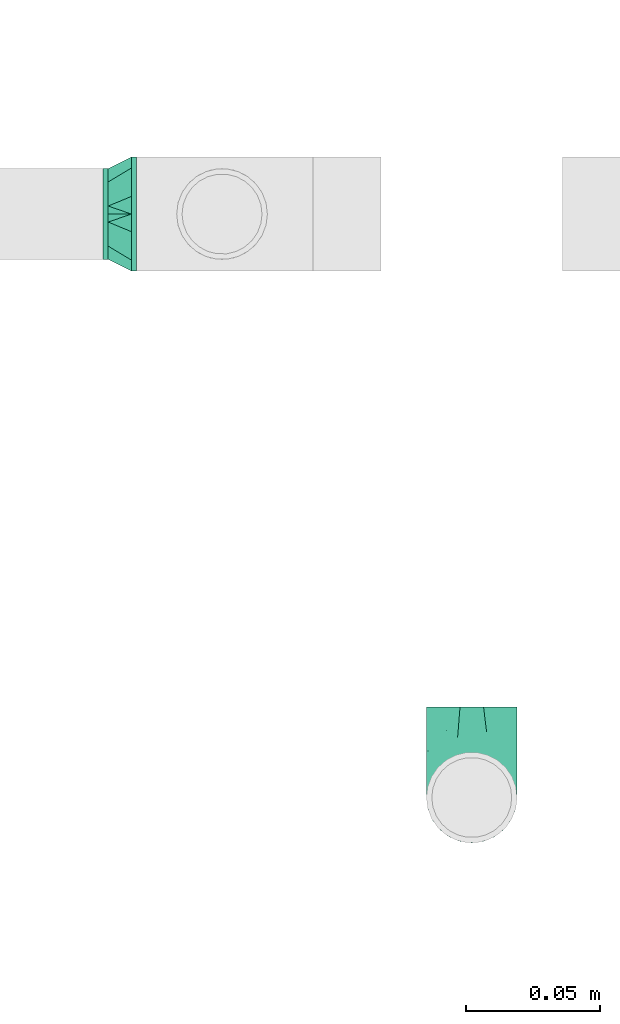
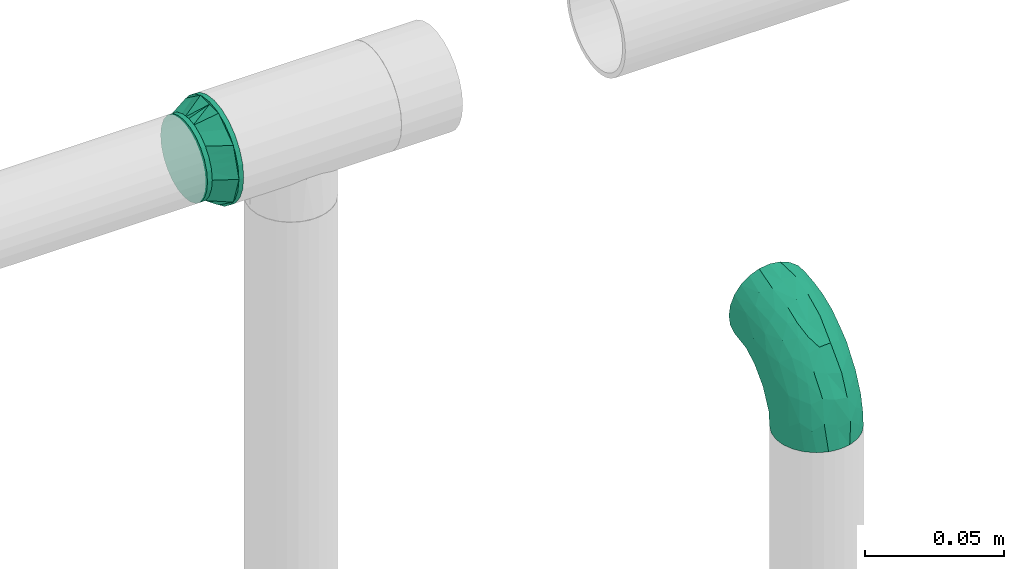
# One storey, part 58 of 94: 2 flow fittings.
"""IFC2X3 building model written with IfcOpenShell, lengths in millimetres."""

from ifc_helpers import new_model, entity, si_unit, converted_unit, derived_unit, direction, frame, origin_with_axes, place, context, subcontext, project, spatial, open_shell, surface_model, source, transform, mapped, type_object, element, save


model = new_model("IFC2X3")

# Units and contexts
model_context = context("Model", 3, precision=0.01, world=frame((0.0, 4.29681676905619e-09, 0.0)), true_north=direction((4.01073788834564e-13, 1.0)))
plan_context = context("Plan", 3, precision=0.01, world=frame((0.0, 4.29681676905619e-09, 0.0)), true_north=direction((4.01073788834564e-13, 1.0)))
body_context = subcontext(model_context, "Body", "Model", "MODEL_VIEW")
ifc_project = project(units=[converted_unit("PLANEANGLEUNIT", "DEGREE", entity("IfcPositiveLengthMeasure", 0.0174532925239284), si_unit("PLANEANGLEUNIT", "RADIAN"), dimensions=[0, 0, 0, 0, 0, 0, 0]), si_unit("AREAUNIT", "SQUARE_METRE"), si_unit("LENGTHUNIT", "METRE", prefix="MILLI"), si_unit("MASSUNIT", "GRAM", prefix="KILO"), si_unit("POWERUNIT", "WATT"), si_unit("PRESSUREUNIT", "PASCAL", prefix="KILO"), si_unit("FORCEUNIT", "NEWTON", prefix="KILO"), si_unit("ELECTRICVOLTAGEUNIT", "VOLT"), si_unit("ELECTRICCURRENTUNIT", "AMPERE"), si_unit("THERMODYNAMICTEMPERATUREUNIT", "DEGREE_CELSIUS"), si_unit("TIMEUNIT", "SECOND"), si_unit("VOLUMEUNIT", "CUBIC_METRE"), derived_unit("LINEARVELOCITYUNIT", [(si_unit("LENGTHUNIT", "METRE"), 1), (si_unit("TIMEUNIT", "SECOND"), -1)]), derived_unit("VOLUMETRICFLOWRATEUNIT", [(si_unit("VOLUMEUNIT", "CUBIC_METRE"), 1), (si_unit("TIMEUNIT", "SECOND"), -1)]), derived_unit("THERMALTRANSMITTANCEUNIT", [(si_unit("POWERUNIT", "WATT"), 1), (si_unit("THERMODYNAMICTEMPERATUREUNIT", "KELVIN"), -1), (si_unit("AREAUNIT", "SQUARE_METRE"), -1)]), derived_unit("SOUNDPRESSUREUNIT", [(si_unit("PRESSUREUNIT", "PASCAL"), 1)])], contexts=[model_context, plan_context])

# Site, building, storey
site_placement = place(None, frame((0.0, -4.29681676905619e-09, 0.0), z_axis=(0.0, 0.0, 1.0), x_axis=(1.0, 0.0, 0.0)))
site = spatial("IfcSite", under=ifc_project, at=site_placement, CompositionType="ELEMENT")
building_placement = place(site_placement, frame((0.0, 4.29681676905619e-09, 0.0), z_axis=(0.0, 0.0, 1.0), x_axis=(1.0, 0.0, 0.0)))
building = spatial("IfcBuilding", under=site, at=building_placement, Name="mc-building", CompositionType="ELEMENT")
storey_placement = place(building_placement, frame((0.0, 0.0, 210900.0), z_axis=(0.0, 0.0, 1.0), x_axis=(1.0, 0.0, 0.0)))
storey = spatial("IfcBuildingStorey", under=building, at=storey_placement, Name="Nivå F", CompositionType="ELEMENT", Elevation=210900.0)

# Flow fittings
pipe_fitting_type_1 = type_object("IfcPipeFittingType", Name="magi_pipe_fe_reducer_centric_short_NOR", PredefinedType="TRANSITION")
shared_shape_1 = source(origin_with_axes(), body_context, "Body", "SurfaceModel", [
    surface_model("IfcShellBasedSurfaceModel", [(-2.0, -10.6, -18.35974), (-2.0, 0.0, -21.2), (-2.0, -5.48696, -20.47763), (-2.0, 5.48696, -20.47763), (-2.0, 10.6, -18.35974), (8.6, -11.9501, -11.9501), (8.6, -11.9501, 11.9501), (8.6, -16.9, 0.0), (8.6, 11.9501, -11.9501), (8.6, 16.9, 0.0), (8.6, 0.0, -16.9), (0.0, 17.15116, 12.46105), (0.0, 6.55116, -20.1624), (0.0, -21.2, 0.0), (0.0, -6.55116, -20.1624), (0.0, -17.15116, -12.46105), (8.6, 2.98753, -15.66253), (0.0, 0.0, -20.1624), (0.0, -11.85116, -16.31172), (8.6, -2.98753, -15.66253), (8.6, 8.96258, -13.18758), (8.6, 5.97505, -14.42505), (0.0, 11.85116, -16.31172), (8.6, -5.97505, -14.42505), (8.6, -13.18758, -8.96258), (8.6, -8.96258, -13.18758), (0.0, -6.55116, 20.1624), (8.6, -2.98753, 15.66253), (0.0, 0.0, 20.1624), (8.6, 11.9501, 11.9501), (0.0, 11.85116, 16.31172), (8.6, 2.98753, 15.66253), (0.0, 6.55116, 20.1624), (8.6, -8.96258, 13.18758), (8.6, -5.97505, 14.42505), (0.0, -11.85116, 16.31172), (8.6, 5.97505, 14.42505), (8.6, 13.18758, 8.96258), (8.6, 8.96258, 13.18758), (10.6, 4.37404, -16.32415), (10.6, 8.45, -14.63583), (10.6, 11.9501, -11.9501), (10.6, -8.45, -14.63583), (10.6, 16.32415, -4.37404), (10.6, 16.32415, 4.37404), (10.6, 14.63583, -8.45), (10.6, 0.0, -16.9), (10.6, -4.37404, -16.32415), (10.6, -11.9501, -11.9501), (10.6, -16.32415, -4.37404), (10.6, -14.63583, -8.45), (10.6, -16.32415, 4.37404), (10.6, 16.9, 0.0), (10.6, 14.63583, 8.45), (10.6, 11.9501, 11.9501), (10.6, 4.37404, 16.32415), (10.6, 8.45, 14.63583), (10.6, 0.0, 16.9), (10.6, -14.63583, 8.45), (10.6, -16.9, 0.0), (10.6, -8.45, 14.63583), (10.6, -11.9501, 11.9501), (10.6, -4.37404, 16.32415), (8.6, 4.37404, 16.32415), (8.6, -14.63583, 8.45), (8.6, 0.0, 16.9), (8.6, 16.32415, 4.37404), (8.6, 8.45, 14.63583), (8.6, 14.63583, 8.45), (8.6, -8.45, 14.63583), (8.6, -4.37404, 16.32415), (8.6, -16.32415, 4.37404), (8.6, -16.32415, -4.37404), (8.6, -8.45, -14.63583), (8.6, 16.32415, -4.37404), (8.6, 14.63583, -8.45), (8.6, 8.45, -14.63583), (8.6, 4.37404, -16.32415), (8.6, -14.63583, -8.45), (8.6, -4.37404, -16.32415), (-2.0, 0.0, 21.2), (-2.0, 5.48696, 20.47763), (-2.0, 10.6, 18.35974), (-2.0, 14.99066, 14.99066), (-2.0, 18.35974, 10.6), (-2.0, 20.47763, 5.48696), (-2.0, -21.2, 0.0), (-2.0, -14.99066, -14.99066), (-2.0, -5.48696, 20.47763), (-2.0, -14.99066, 14.99066), (-2.0, -10.6, 18.35974), (-2.0, -18.35974, 10.6), (-2.0, -20.47763, 5.48696), (-2.0, 20.47763, -5.48696), (-2.0, 14.99066, -14.99066), (-2.0, 18.35974, -10.6), (-2.0, -18.35974, -10.6), (-2.0, -20.47763, -5.48696), (-2.0, 21.2, 0.0), (0.0, 10.6, -18.35974), (0.0, 0.0, -21.2), (0.0, 5.48696, -20.47763), (0.0, 20.47763, -5.48696), (0.0, 14.99066, -14.99066), (0.0, -14.99066, -14.99066), (0.0, 18.35974, -10.6), (0.0, -10.6, -18.35974), (0.0, -5.48696, -20.47763), (0.0, -18.35974, -10.6), (0.0, -20.47763, -5.48696), (0.0, -18.35974, 10.6), (0.0, 21.2, 0.0), (0.0, 20.47763, 5.48696), (0.0, 18.35974, 10.6), (0.0, 14.99066, 14.99066), (0.0, 0.0, 21.2), (0.0, 10.6, 18.35974), (0.0, 5.48696, 20.47763), (0.0, -14.99066, 14.99066), (0.0, -20.47763, 5.48696), (0.0, -5.48696, 20.47763), (0.0, -10.6, 18.35974), (0.0, -17.15116, 12.46105), (0.0, 17.15116, -12.46105), (0.0, 14.50116, -14.38638), (8.6, -14.42505, -5.97505), (0.0, -19.17558, -6.23052), (0.0, -18.16337, -9.34579), (8.6, 14.42505, -5.97505), (0.0, 19.17558, -6.23052), (8.6, 13.18758, -8.96258), (8.6, 15.66253, -2.98753), (8.6, -15.66253, -2.98753), (0.0, -14.50116, 14.38638), (8.6, 14.42505, 5.97505), (0.0, 19.17558, 6.23052), (0.0, 18.16337, 9.34579), (8.6, -14.42505, 5.97505), (0.0, -19.17558, 6.23052), (8.6, -13.18758, 8.96258), (8.6, -15.66253, 2.98753), (8.6, 15.66253, 2.98753)], [open_shell([[[0, 1, 2]], [[3, 1, 4]], [[5, 6, 7]], [[8, 9, 10]], [[11, 12, 13]], [[13, 12, 14]], [[13, 14, 15]], [[12, 16, 17]], [[5, 15, 18]], [[17, 19, 14]], [[20, 21, 22]], [[19, 23, 14]], [[12, 21, 16]], [[15, 5, 24]], [[25, 5, 18]], [[22, 8, 20]], [[26, 27, 28]], [[29, 11, 30]], [[28, 31, 32]], [[33, 34, 35]], [[31, 36, 32]], [[26, 34, 27]], [[11, 29, 37]], [[38, 29, 30]], [[35, 6, 33]], [[39, 40, 41]], [[42, 39, 41]], [[41, 43, 44]], [[43, 41, 45]], [[41, 44, 42]], [[46, 42, 47]], [[46, 39, 42]], [[48, 49, 50]], [[49, 48, 42]], [[42, 51, 49]], [[44, 43, 52]], [[44, 53, 54]], [[44, 54, 55]], [[55, 51, 42]], [[55, 54, 56]], [[51, 55, 57]], [[57, 58, 51]], [[59, 49, 51]], [[58, 60, 61]], [[58, 57, 60]], [[60, 57, 62]], [[42, 44, 55]], [[63, 64, 65]], [[66, 63, 67]], [[29, 68, 66]], [[29, 66, 67]], [[64, 63, 66]], [[69, 64, 6]], [[69, 70, 65]], [[65, 64, 69]], [[71, 64, 66]], [[71, 72, 7]], [[71, 66, 73]], [[66, 74, 8]], [[8, 74, 75]], [[8, 76, 77]], [[73, 66, 8]], [[77, 10, 8]], [[72, 5, 78]], [[5, 72, 73]], [[73, 10, 79]], [[72, 71, 73]], [[8, 10, 73]], [[74, 66, 9]], [[72, 49, 7]], [[78, 50, 72]], [[42, 5, 73]], [[78, 5, 48]], [[47, 73, 79]], [[72, 50, 49]], [[49, 59, 7]], [[47, 42, 73]], [[48, 5, 42]], [[48, 50, 78]], [[46, 47, 79]], [[79, 10, 46]], [[77, 39, 10]], [[76, 40, 77]], [[45, 8, 75]], [[76, 8, 41]], [[43, 75, 74]], [[76, 41, 40]], [[40, 39, 77]], [[52, 43, 74]], [[45, 75, 43]], [[45, 41, 8]], [[9, 52, 74]], [[10, 39, 46]], [[66, 44, 9]], [[68, 53, 66]], [[56, 29, 67]], [[68, 29, 54]], [[55, 67, 63]], [[66, 53, 44]], [[44, 52, 9]], [[55, 56, 67]], [[54, 29, 56]], [[54, 53, 68]], [[57, 55, 63]], [[63, 65, 57]], [[70, 62, 65]], [[69, 60, 70]], [[58, 6, 64]], [[69, 6, 61]], [[51, 64, 71]], [[69, 61, 60]], [[60, 62, 70]], [[59, 51, 71]], [[58, 64, 51]], [[58, 61, 6]], [[7, 59, 71]], [[65, 62, 57]], [[80, 81, 82]], [[80, 82, 83]], [[83, 84, 85]], [[83, 85, 80]], [[86, 80, 87]], [[88, 89, 90]], [[88, 80, 89]], [[91, 86, 92]], [[89, 80, 91]], [[80, 86, 91]], [[80, 85, 87]], [[85, 93, 4]], [[94, 93, 95]], [[87, 85, 4]], [[4, 93, 94]], [[86, 96, 97]], [[87, 96, 86]], [[0, 87, 4]], [[1, 0, 4]], [[93, 85, 98]], [[99, 100, 101]], [[102, 99, 103]], [[13, 104, 99]], [[102, 103, 105]], [[102, 13, 99]], [[100, 106, 107]], [[100, 99, 106]], [[108, 13, 109]], [[106, 99, 104]], [[108, 104, 13]], [[110, 102, 111]], [[112, 113, 114]], [[112, 114, 115]], [[116, 117, 115]], [[116, 115, 114]], [[112, 115, 118]], [[13, 110, 119]], [[102, 110, 13]], [[118, 120, 121]], [[110, 112, 118]], [[115, 120, 118]], [[110, 111, 112]], [[97, 109, 86]], [[96, 108, 97]], [[106, 87, 0]], [[96, 87, 104]], [[107, 0, 2]], [[97, 108, 109]], [[109, 13, 86]], [[107, 106, 0]], [[104, 87, 106]], [[104, 108, 96]], [[100, 107, 2]], [[2, 1, 100]], [[3, 101, 1]], [[4, 99, 3]], [[105, 94, 95]], [[4, 94, 103]], [[102, 95, 93]], [[4, 103, 99]], [[99, 101, 3]], [[111, 102, 93]], [[105, 95, 102]], [[105, 103, 94]], [[98, 111, 93]], [[1, 101, 100]], [[85, 112, 98]], [[84, 113, 85]], [[116, 83, 82]], [[84, 83, 114]], [[117, 82, 81]], [[85, 113, 112]], [[112, 111, 98]], [[117, 116, 82]], [[114, 83, 116]], [[114, 113, 84]], [[115, 117, 81]], [[81, 80, 115]], [[88, 120, 80]], [[90, 121, 88]], [[110, 89, 91]], [[90, 89, 118]], [[119, 91, 92]], [[90, 118, 121]], [[121, 120, 88]], [[13, 119, 92]], [[110, 91, 119]], [[110, 118, 89]], [[86, 13, 92]], [[80, 120, 115]], [[65, 6, 29]], [[9, 29, 6]], [[6, 10, 9]], [[10, 6, 5]], [[32, 11, 122]], [[32, 122, 26]], [[122, 11, 13]], [[12, 11, 123]], [[123, 11, 111]], [[8, 22, 124]], [[125, 126, 127]], [[22, 21, 12]], [[8, 124, 123]], [[128, 123, 129]], [[17, 16, 10]], [[123, 128, 130]], [[111, 131, 129]], [[13, 132, 7]], [[18, 23, 25]], [[13, 126, 132]], [[19, 17, 10]], [[131, 111, 9]], [[125, 132, 126]], [[15, 24, 127]], [[24, 125, 127]], [[8, 123, 130]], [[23, 18, 14]], [[131, 128, 129]], [[6, 35, 133]], [[134, 135, 136]], [[35, 34, 26]], [[6, 133, 122]], [[137, 122, 138]], [[28, 27, 65]], [[122, 137, 139]], [[13, 140, 138]], [[111, 141, 9]], [[30, 36, 38]], [[111, 135, 141]], [[31, 28, 65]], [[140, 13, 7]], [[134, 141, 135]], [[11, 37, 136]], [[37, 134, 136]], [[6, 122, 139]], [[36, 30, 32]], [[140, 137, 138]]])]),
])
flow_fitting_1_placement = place(storey_placement, frame((728473.15728, 436418.06941, 3500.0), z_axis=(0.0, 0.0, 1.0), x_axis=(-1.0, 0.0, 0.0)))
element("IfcFlowFitting", 1, at=flow_fitting_1_placement, inside=storey, type_object=pipe_fitting_type_1, Name="magi_pipe_fe_reducer_centric_short_NOR", context=body_context, shape_type="MappedRepresentation", body=[
    mapped(shared_shape_1, transform((0.0, 0.0, 0.0), scale=1.0)),
])
pipe_fitting_type_2 = type_object("IfcPipeFittingType", Name="magi_pipe_fe_elbow_short_001", PredefinedType="BEND")
shared_shape_2 = source(origin_with_axes(), body_context, "Body", "SurfaceModel", [
    surface_model("IfcShellBasedSurfaceModel", [(-33.8, 8.45, -14.63583), (-33.8, 4.37404, -16.32415), (-33.8, 11.9501, -11.9501), (-33.8, -11.9501, -11.9501), (-33.8, -14.63583, -8.45), (-33.8, -8.45, -14.63583), (-33.8, 0.0, -16.9), (-33.8, -4.37404, -16.32415), (-33.8, -4.37404, 16.32415), (-33.8, 0.0, 16.9), (-33.8, -8.45, 14.63583), (-33.8, 16.32415, -4.37404), (-33.8, 14.63583, -8.45), (-33.8, -16.32415, -4.37404), (-33.8, -16.9, 0.0), (-33.8, -16.32415, 4.37404), (-33.8, 11.9501, 11.9501), (-33.8, 14.63583, 8.45), (-33.8, 16.32415, 4.37404), (-33.8, 4.37404, 16.32415), (-33.8, 8.45, 14.63583), (-33.8, -14.63583, 8.45), (-33.8, -11.9501, 11.9501), (-33.8, 16.9, 0.0), (-11.9501, 33.8, -11.9501), (0.0, 33.8, -16.9), (-4.37404, 33.8, -16.32415), (-8.45, 33.8, -14.63583), (-14.63583, 33.8, -8.45), (-16.32415, 33.8, -4.37404), (14.63583, 33.8, -8.45), (8.45, 33.8, 14.63583), (16.32415, 33.8, -4.37404), (8.45, 33.8, -14.63583), (11.9501, 33.8, -11.9501), (4.37404, 33.8, -16.32415), (16.32415, 33.8, 4.37404), (16.9, 33.8, 0.0), (-11.9501, 33.8, 11.9501), (-16.32415, 33.8, 4.37404), (-14.63583, 33.8, 8.45), (-8.45, 33.8, 14.63583), (-4.37404, 33.8, 16.32415), (11.9501, 33.8, 11.9501), (14.63583, 33.8, 8.45), (0.0, 33.8, 16.9), (4.37404, 33.8, 16.32415), (-16.9, 33.8, 0.0), (-24.79389, -13.12945, 9.48721), (-22.19287, -9.75018, 12.59315), (-24.09897, -14.97035, 0.0), (-14.93934, -10.76256, 8.5297), (-22.46095, -14.75051, 5.27077), (14.75051, 22.46094, 5.27077), (11.9251, 13.23888, 4.33236), (13.04069, 14.39795, 0.0), (7.71387, 13.68847, 11.55891), (9.75018, 22.19287, 12.59315), (4.10169, 13.0571, 14.04018), (-24.84007, -6.39063, 15.2048), (-25.81779, -2.23879, 16.61097), (-23.66549, 2.59054, 16.87119), (-26.50418, 14.06512, 11.08152), (-24.21253, 17.66365, 7.72657), (-29.58514, 15.86957, 7.00283), (-6.17382, -7.5455, 0.0), (-13.23888, -11.9251, 4.33236), (-14.39795, -13.04069, 0.0), (-17.81434, 18.87373, 11.97104), (-6.30846, 29.15138, 15.82987), (-2.31622, 25.28002, 16.85849), (-29.23923, 10.23435, 13.77053), (-1.45439, -2.85688, 7.61475), (-0.28326, 0.34872, 10.09509), (-5.74484, -4.04709, 10.4122), (-4.41137, 11.31918, 16.59407), (-8.39727, 3.10034, 15.7812), (-1.72649, 9.1306, 15.53089), (-17.39909, 24.75344, 7.64977), (-26.19233, 20.0512, 0.0), (-28.14518, 17.29657, 4.25857), (-26.05147, 6.6281, 15.96447), (-5.87354, 16.61944, 16.86968), (-12.51807, 12.51807, 16.48937), (-10.06312, 7.38516, 16.81295), (-3.01882, 3.01882, 13.81718), (-13.0571, -4.10169, 14.04018), (-16.82553, -0.15166, 16.38038), (10.76256, 14.93934, 8.5297), (13.12945, 24.79389, 9.48721), (6.39063, 24.84007, 15.2048), (2.23879, 25.81779, 16.61097), (-13.68847, -7.71387, 11.55891), (14.97035, 24.09897, 0.0), (-7.30894, 22.89991, 16.09489), (-10.67958, 26.17414, 14.008), (-12.78295, 18.26924, 15.06066), (-13.88562, 22.45231, 12.93244), (-18.04944, 15.16501, 14.04434), (-23.11658, 20.08178, 4.02986), (-21.84989, 21.84989, 0.0), (-18.55817, 25.48277, 3.93065), (-13.95142, 26.94732, 11.03289), (-18.57098, 7.23906, 16.59756), (-16.58335, 4.14122, 16.89279), (-17.96666, 11.46709, 15.63151), (-9.84453, 17.54304, 16.18938), (0.15166, 16.82553, 16.38038), (-23.27207, 11.47201, 14.23154), (3.84842, 5.86994, 10.70473), (-8.0212, -7.54413, 7.93275), (1.00345, -2.19508, 4.57414), (5.13203, 3.01004, 5.90201), (5.24161, 1.7543, 2.53265), (8.70457, 7.04947, 3.99182), (-20.0512, 26.19233, 0.0), (8.4852, 8.76699, 7.09296), (-4.55488, -6.72064, 4.90681), (2.05031, -2.05031, 0.0), (7.5455, 6.17382, 0.0), (-26.75399, 2.1369, -16.845), (-14.61995, 24.73803, -11.27736), (-28.45274, -13.45335, -9.81895), (-26.00469, 6.63555, -15.96645), (-23.06726, 20.04573, -4.26202), (-13.80647, -4.26506, -14.17873), (-14.67501, -0.21081, -16.07388), (-6.7902, -0.2828, -13.8478), (-24.53586, 11.08096, -14.13417), (-26.72048, 14.00837, -11.05776), (10.0967, 24.44989, -12.75976), (5.83237, 21.40218, -15.03047), (6.66249, 28.54238, -15.38093), (-20.38182, 15.48705, -12.74596), (12.53268, 21.23441, -9.15363), (12.54494, 15.67504, -5.54878), (9.7522, 12.89279, -8.66343), (-15.65186, 19.64213, -13.01327), (-12.03528, 20.66498, -14.67665), (-15.61907, 15.61906, -14.83879), (-25.56551, -15.26206, 0.0), (-24.65452, -15.12934, -5.50955), (13.45335, 28.45274, -9.81895), (15.12934, 24.65452, -5.50955), (-7.35442, -8.31014, -5.65563), (-15.67504, -12.54494, -5.54878), (-24.44989, -10.0967, -12.75976), (0.16522, 0.41303, -9.71728), (-5.70658, -5.33066, -8.89288), (-5.13869, -2.37198, -11.53565), (-21.23441, -12.53268, -9.15363), (0.71146, 7.93863, -14.09382), (0.21081, 14.67501, -16.07388), (3.49291, 14.42772, -14.76381), (-24.89911, -2.13088, -16.591), (-28.54238, -6.66249, -15.38093), (-18.44386, -7.71663, -13.26957), (2.13088, 24.89911, -16.591), (-28.64342, 17.44413, -2.89318), (1.70017, -1.28722, -5.09504), (-16.57067, 26.81947, -7.36596), (-17.69055, 27.4263, -3.76405), (-12.89279, -9.7522, -8.66343), (-5.96611, 5.96611, -15.95814), (-20.53709, 20.09345, -8.28985), (-2.1369, 26.75399, -16.845), (-6.89872, 24.58781, -16.02578), (-10.60739, 26.53157, -13.98044), (-21.40218, -5.83237, -15.03047), (2.93192, 5.89627, -11.55917), (6.89393, 12.61842, -11.82233), (5.58056, 5.95325, -8.79455), (-3.99512, 18.61798, -16.89635), (8.31014, 7.35442, -5.65563), (-9.1383, 9.86148, -16.89041), (-9.99983, 16.02119, -16.39699), (-16.68576, 9.78031, -16.34199), (-27.01915, 16.61158, -7.12979), (15.26206, 25.56551, 0.0), (-18.61798, 3.99512, -16.89635), (-19.37495, 27.82495, 0.0), (-12.61842, -6.89393, -11.82233), (-18.84705, 19.14018, -10.96545)], [open_shell([[[0, 1, 2]], [[3, 4, 5]], [[6, 7, 5]], [[8, 9, 10]], [[1, 6, 2]], [[11, 12, 2]], [[4, 2, 6]], [[2, 13, 10]], [[5, 4, 6]], [[2, 4, 13]], [[14, 15, 13]], [[11, 2, 16]], [[11, 17, 18]], [[11, 16, 17]], [[19, 20, 16]], [[16, 2, 10]], [[19, 16, 10]], [[21, 22, 15]], [[22, 13, 15]], [[22, 10, 13]], [[10, 9, 19]], [[11, 18, 23]], [[24, 25, 26]], [[24, 26, 27]], [[24, 28, 29]], [[25, 24, 30]], [[31, 32, 24]], [[33, 30, 34]], [[33, 35, 25]], [[25, 30, 33]], [[32, 30, 24]], [[32, 36, 37]], [[38, 24, 29]], [[39, 40, 29]], [[40, 38, 29]], [[38, 41, 42]], [[38, 31, 24]], [[31, 38, 42]], [[36, 43, 44]], [[36, 32, 43]], [[31, 45, 46]], [[32, 31, 43]], [[42, 45, 31]], [[39, 29, 47]], [[22, 48, 49]], [[15, 14, 50]], [[51, 48, 52]], [[53, 54, 55]], [[48, 22, 21]], [[15, 52, 21]], [[56, 57, 58]], [[49, 10, 22]], [[49, 59, 10]], [[9, 60, 61]], [[62, 63, 64]], [[65, 66, 67]], [[57, 43, 31]], [[62, 68, 63]], [[42, 69, 70]], [[20, 71, 16]], [[8, 60, 9]], [[72, 73, 74]], [[75, 76, 77]], [[16, 62, 17]], [[40, 39, 78]], [[79, 23, 80]], [[64, 18, 17]], [[9, 61, 19]], [[19, 81, 20]], [[82, 83, 84]], [[74, 85, 86]], [[59, 86, 87]], [[88, 89, 57]], [[90, 31, 46]], [[44, 53, 36]], [[46, 45, 91]], [[54, 53, 88]], [[44, 89, 53]], [[92, 86, 49]], [[89, 44, 43]], [[10, 59, 8]], [[53, 55, 93]], [[93, 36, 53]], [[66, 52, 67]], [[94, 82, 70]], [[95, 96, 94]], [[97, 98, 96]], [[79, 99, 100]], [[41, 38, 95]], [[101, 100, 99]], [[68, 78, 63]], [[42, 41, 69]], [[23, 18, 80]], [[95, 94, 69]], [[78, 101, 99]], [[38, 102, 95]], [[70, 45, 42]], [[97, 95, 102]], [[15, 50, 52]], [[90, 57, 31]], [[57, 90, 58]], [[81, 19, 61]], [[103, 104, 84]], [[105, 81, 103]], [[38, 40, 102]], [[106, 96, 83]], [[94, 106, 82]], [[91, 70, 107]], [[71, 62, 16]], [[62, 108, 98]], [[86, 59, 49]], [[67, 52, 50]], [[60, 59, 87]], [[92, 49, 51]], [[86, 85, 76]], [[91, 90, 46]], [[37, 36, 93]], [[107, 77, 58]], [[107, 58, 90]], [[58, 85, 109]], [[110, 74, 92]], [[72, 74, 110]], [[66, 51, 52]], [[72, 111, 112]], [[113, 114, 112]], [[56, 88, 57]], [[52, 48, 21]], [[49, 48, 51]], [[57, 89, 43]], [[53, 89, 88]], [[103, 81, 61]], [[71, 81, 108]], [[18, 64, 80]], [[63, 78, 99]], [[47, 115, 101]], [[101, 115, 100]], [[40, 78, 102]], [[68, 102, 78]], [[97, 96, 95]], [[105, 98, 108]], [[103, 84, 83]], [[107, 70, 82]], [[76, 84, 87]], [[82, 84, 75]], [[70, 91, 45]], [[90, 91, 107]], [[59, 60, 8]], [[61, 60, 87]], [[73, 85, 74]], [[109, 112, 116]], [[103, 61, 104]], [[105, 103, 83]], [[96, 105, 83]], [[81, 105, 108]], [[96, 98, 105]], [[62, 98, 68]], [[61, 87, 104]], [[87, 84, 104]], [[86, 76, 87]], [[77, 76, 85]], [[58, 77, 85]], [[75, 77, 107]], [[82, 75, 107]], [[76, 75, 84]], [[81, 71, 20]], [[62, 71, 108]], [[95, 69, 41]], [[70, 69, 94]], [[62, 64, 17]], [[80, 63, 99]], [[63, 80, 64]], [[80, 99, 79]], [[66, 65, 117]], [[110, 66, 117]], [[112, 114, 116]], [[118, 117, 65]], [[110, 92, 51]], [[112, 111, 113]], [[119, 55, 54]], [[74, 86, 92]], [[58, 109, 56]], [[116, 56, 109]], [[66, 110, 51]], [[72, 110, 117]], [[111, 72, 117]], [[73, 112, 109]], [[117, 118, 111]], [[113, 111, 118]], [[118, 119, 113]], [[114, 119, 54]], [[119, 114, 113]], [[116, 54, 88]], [[54, 116, 114]], [[116, 88, 56]], [[112, 73, 72]], [[85, 73, 109]], [[78, 39, 101]], [[47, 101, 39]], [[102, 68, 97]], [[97, 68, 98]], [[82, 106, 83]], [[94, 96, 106]], [[1, 120, 6]], [[28, 24, 121]], [[3, 122, 4]], [[0, 123, 1]], [[100, 124, 79]], [[125, 126, 127]], [[128, 2, 129]], [[130, 131, 132]], [[128, 129, 133]], [[134, 135, 136]], [[137, 138, 139]], [[128, 0, 2]], [[67, 140, 141]], [[134, 142, 143]], [[141, 13, 4]], [[144, 65, 145]], [[146, 3, 5]], [[147, 148, 149]], [[145, 141, 150]], [[151, 152, 153]], [[154, 7, 6]], [[5, 155, 146]], [[150, 146, 156]], [[155, 5, 7]], [[143, 135, 134]], [[35, 157, 25]], [[23, 79, 158]], [[148, 159, 144]], [[160, 161, 29]], [[145, 162, 144]], [[163, 152, 151]], [[29, 28, 160]], [[121, 164, 160]], [[33, 34, 130]], [[25, 165, 26]], [[26, 165, 166]], [[142, 34, 30]], [[24, 27, 167]], [[124, 161, 164]], [[157, 35, 132]], [[155, 154, 168]], [[123, 0, 128]], [[169, 170, 171]], [[172, 157, 152]], [[26, 166, 27]], [[132, 35, 33]], [[142, 130, 34]], [[168, 154, 126]], [[136, 135, 173]], [[133, 137, 139]], [[2, 12, 129]], [[170, 131, 130]], [[30, 32, 143]], [[172, 174, 175]], [[176, 123, 128]], [[158, 177, 11]], [[135, 55, 119]], [[167, 27, 166]], [[175, 166, 172]], [[137, 167, 138]], [[122, 141, 4]], [[140, 14, 13]], [[32, 37, 178]], [[170, 130, 134]], [[152, 157, 131]], [[165, 157, 172]], [[153, 170, 151]], [[152, 163, 174]], [[168, 125, 156]], [[122, 146, 150]], [[120, 154, 6]], [[179, 174, 126]], [[179, 126, 154]], [[126, 163, 127]], [[162, 145, 150]], [[140, 13, 141]], [[32, 178, 143]], [[55, 143, 178]], [[177, 129, 12]], [[128, 133, 139]], [[176, 128, 139]], [[120, 123, 179]], [[121, 160, 28]], [[161, 100, 180]], [[166, 175, 138]], [[121, 24, 167]], [[161, 47, 29]], [[79, 124, 158]], [[124, 164, 177]], [[161, 124, 100]], [[136, 171, 170]], [[127, 163, 151]], [[147, 171, 159]], [[148, 144, 162]], [[127, 151, 169]], [[127, 181, 125]], [[129, 177, 164]], [[12, 11, 177]], [[159, 65, 144]], [[67, 141, 145]], [[143, 55, 135]], [[135, 119, 173]], [[123, 120, 1]], [[154, 120, 179]], [[157, 165, 25]], [[166, 165, 172]], [[172, 152, 174]], [[176, 139, 175]], [[126, 174, 163]], [[176, 174, 179]], [[174, 176, 175]], [[123, 176, 179]], [[150, 181, 162]], [[127, 149, 181]], [[181, 148, 162]], [[159, 148, 147]], [[171, 136, 173]], [[170, 134, 136]], [[159, 171, 173]], [[171, 147, 169]], [[169, 147, 149]], [[151, 170, 169]], [[164, 182, 129]], [[182, 121, 137]], [[181, 149, 148]], [[169, 149, 127]], [[182, 137, 133]], [[167, 137, 121]], [[166, 138, 167]], [[175, 139, 138]], [[129, 182, 133]], [[121, 182, 164]], [[161, 160, 164]], [[47, 161, 180]], [[177, 158, 124]], [[23, 158, 11]], [[130, 132, 33]], [[157, 132, 131]], [[143, 142, 30]], [[130, 142, 134]], [[154, 155, 7]], [[146, 155, 168]], [[146, 122, 3]], [[141, 122, 150]], [[152, 131, 153]], [[159, 119, 118]], [[67, 145, 65]], [[170, 153, 131]], [[119, 159, 173]], [[159, 118, 65]], [[156, 125, 181]], [[126, 125, 168]], [[150, 156, 181]], [[168, 156, 146]]])]),
])
flow_fitting_2_placement = place(storey_placement, frame((728600.0, 436200.7, 3500.0), z_axis=(-1.0, 0.0, 0.0), x_axis=(0.0, 0.0, 1.0)))
element("IfcFlowFitting", 2, at=flow_fitting_2_placement, inside=storey, type_object=pipe_fitting_type_2, Name="magi_pipe_fe_elbow_short_001", context=body_context, shape_type="MappedRepresentation", body=[
    mapped(shared_shape_2, transform((0.0, 0.0, 0.0), scale=1.0)),
])

save(model, "model.ifc")
